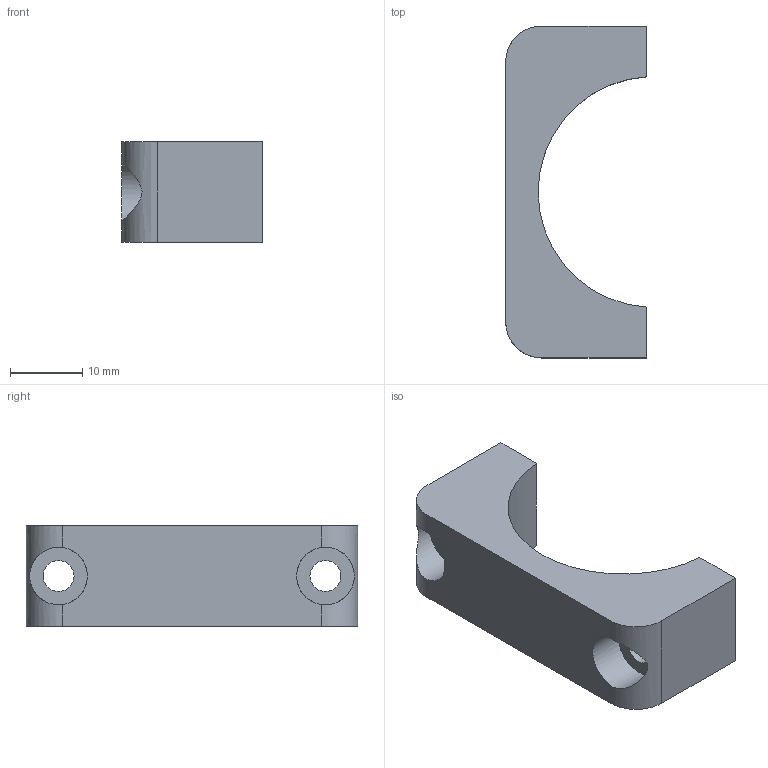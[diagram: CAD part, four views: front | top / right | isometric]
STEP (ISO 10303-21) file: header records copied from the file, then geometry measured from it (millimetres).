
FILE_DESCRIPTION(/* description */ (''),/* implementation_level */ '2;1');
FILE_NAME(/* name */ 'ASSY_STAVE_ONWHEELS_02.stp',/* time_stamp */ '2017-12-06T13:54:24+01:00',/* author */ (''),/* organization */ (''),/* preprocessor_version */ 'ST-DEVELOPER v16',/* originating_system */ 'SIEMENS PLM Software NX 10.0',/* authorisation */ '');
FILE_SCHEMA (('AP203_CONFIGURATION_CONTROLLED_3D_DESIGN_OF_MECHANICAL_PARTS_AND_ASSEMBLIES_MIM_LF { 1 0 10303 403 2 1 2}'));
Length unit declared in the file: millimetre
Products named in the file (1): turc1DB80072j4i9
Bounding box: 19.5 x 46 x 14 mm (x, y, z)
Volume: 6333.1 mm3; surface area: 3568.5 mm2
Topology: 1 solids, 1 shells, 18 faces, 52 edges, 34 vertices
Faces by surface type: plane 9, cylinder 7, cone 2
Full cylindrical faces by diameter (mm): 4.3 x2, 8 x2
Entity records: 660 total; most frequent: CARTESIAN_POINT 129, DIRECTION 92, ORIENTED_EDGE 84, EDGE_CURVE 42, AXIS2_PLACEMENT_3D 35, VERTEX_POINT 30, EDGE_LOOP 26, LINE 22
